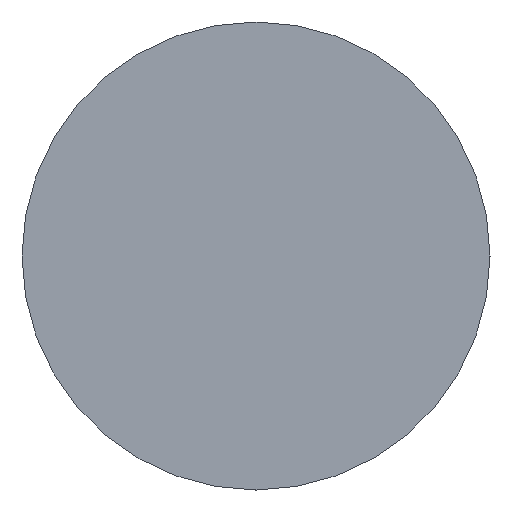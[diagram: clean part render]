
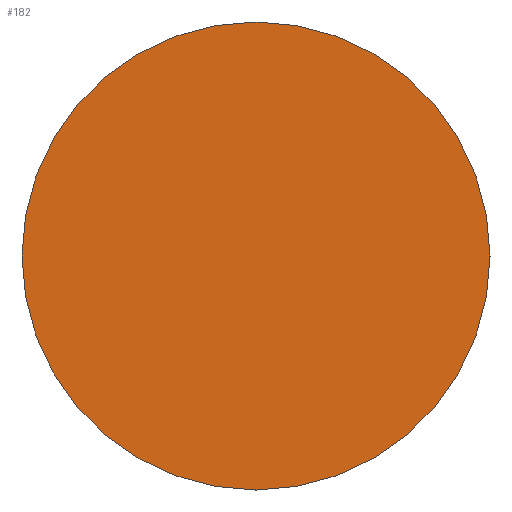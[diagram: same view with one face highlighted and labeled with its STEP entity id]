
A CAD part, left-side view. The second image highlights one B-rep face of the part: STEP entity #182.
In plain terms, the highlighted planar face has unit normal (-1, 0, 0).
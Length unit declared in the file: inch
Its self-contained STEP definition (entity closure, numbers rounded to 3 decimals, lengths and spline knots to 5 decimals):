
#8 = DIRECTION ( 'NONE',  ( 0., 0., 1. ) ) ;
#39 = FACE_OUTER_BOUND ( 'NONE', #337, .T. ) ;
#54 = CARTESIAN_POINT ( 'NONE',  ( -6., 0., 0.375 ) ) ;
#65 = CARTESIAN_POINT ( 'NONE',  ( -6., 0.375, 0. ) ) ;
#91 = CARTESIAN_POINT ( 'NONE',  ( -6., 0., 0. ) ) ;
#102 = CIRCLE ( 'NONE', #364, 0.375 ) ;
#106 = EDGE_CURVE ( 'NONE', #130, #318, #266, .T. ) ;
#128 = AXIS2_PLACEMENT_3D ( 'NONE', #91, #421, #353 ) ;
#130 = VERTEX_POINT ( 'NONE', #54 ) ;
#137 = ORIENTED_EDGE ( 'NONE', *, *, #293, .T. ) ;
#175 = DIRECTION ( 'NONE',  ( 1., 0., 0. ) ) ;
#179 = CARTESIAN_POINT ( 'NONE',  ( -6., 0., 0. ) ) ;
#182 = ADVANCED_FACE ( 'NONE', ( #39 ), #284, .F. ) ;
#266 = CIRCLE ( 'NONE', #128, 0.375 ) ;
#284 = PLANE ( 'NONE',  #409 ) ;
#293 = EDGE_CURVE ( 'NONE', #318, #130, #102, .T. ) ;
#318 = VERTEX_POINT ( 'NONE', #436 ) ;
#326 = DIRECTION ( 'NONE',  ( 0., 0., -1. ) ) ;
#328 = DIRECTION ( 'NONE',  ( -1., 0., 0. ) ) ;
#337 = EDGE_LOOP ( 'NONE', ( #401, #137 ) ) ;
#353 = DIRECTION ( 'NONE',  ( 0., 0., 1. ) ) ;
#364 = AXIS2_PLACEMENT_3D ( 'NONE', #179, #328, #8 ) ;
#401 = ORIENTED_EDGE ( 'NONE', *, *, #106, .T. ) ;
#409 = AXIS2_PLACEMENT_3D ( 'NONE', #65, #175, #326 ) ;
#421 = DIRECTION ( 'NONE',  ( -1., 0., 0. ) ) ;
#436 = CARTESIAN_POINT ( 'NONE',  ( -6., 0., -0.375 ) ) ;
